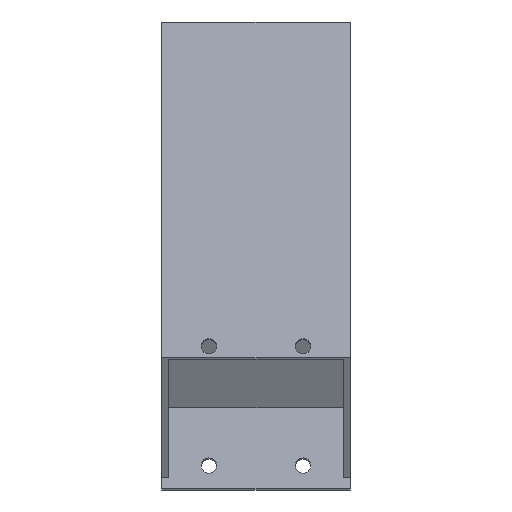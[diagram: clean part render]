
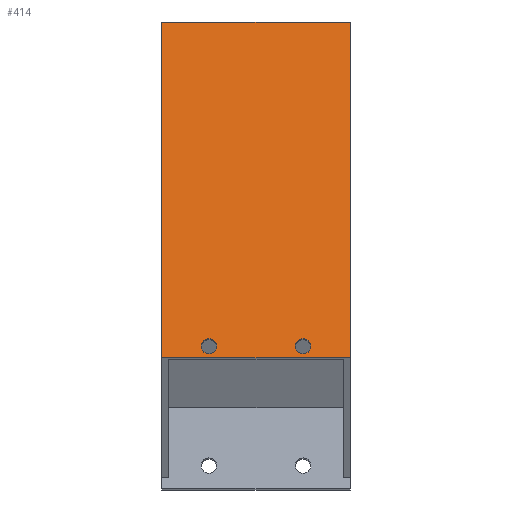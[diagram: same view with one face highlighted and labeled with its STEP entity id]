
A CAD part, top view. The second image highlights one B-rep face of the part: STEP entity #414.
In plain terms, the highlighted planar face has unit normal (0, 0.174, 0.985).
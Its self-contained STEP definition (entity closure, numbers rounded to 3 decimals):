
#122=CARTESIAN_POINT('',(-298.5,253.85,1938.666));
#123=VERTEX_POINT('',#122);
#130=CARTESIAN_POINT('',(-378.5,253.85,1938.666));
#131=VERTEX_POINT('',#130);
#132=CARTESIAN_POINT('',(-298.5,253.85,1938.666));
#133=DIRECTION('',(-1.0,0.,0.));
#134=VECTOR('',#133,1.);
#135=LINE('',#132,#134);
#136=EDGE_CURVE('',#123,#131,#135,.T.);
#362=CARTESIAN_POINT('',(-298.5,286.348,1932.935));
#363=DIRECTION('',(0.0,0.174,0.985));
#364=DIRECTION('',(-1.0,0.0,0.0));
#365=AXIS2_PLACEMENT_3D('',#362,#363,#364);
#366=PLANE('',#365);
#367=ORIENTED_EDGE('',*,*,#136,.F.);
#368=CARTESIAN_POINT('',(-298.5,396.647,1913.487));
#369=VERTEX_POINT('',#368);
#370=CARTESIAN_POINT('',(-298.5,253.85,1938.666));
#371=DIRECTION('',(0.0,0.985,-0.174));
#372=VECTOR('',#371,1.);
#373=LINE('',#370,#372);
#374=EDGE_CURVE('',#123,#369,#373,.T.);
#375=ORIENTED_EDGE('',*,*,#374,.T.);
#376=CARTESIAN_POINT('',(-378.5,396.647,1913.487));
#377=VERTEX_POINT('',#376);
#378=CARTESIAN_POINT('',(-298.5,396.647,1913.487));
#379=DIRECTION('',(-1.0,0.,0.));
#380=VECTOR('',#379,1.);
#381=LINE('',#378,#380);
#382=EDGE_CURVE('',#369,#377,#381,.T.);
#383=ORIENTED_EDGE('',*,*,#382,.T.);
#384=CARTESIAN_POINT('',(-378.5,253.85,1938.666));
#385=DIRECTION('',(0.0,0.985,-0.174));
#386=VECTOR('',#385,1.);
#387=LINE('',#384,#386);
#388=EDGE_CURVE('',#131,#377,#387,.T.);
#389=ORIENTED_EDGE('',*,*,#388,.F.);
#390=EDGE_LOOP('',(#367,#375,#383,#389));
#391=FACE_OUTER_BOUND('',#390,.T.);
#392=CARTESIAN_POINT('',(-355.2,258.774,1937.798));
#393=VERTEX_POINT('',#392);
#394=CARTESIAN_POINT('',(-358.5,258.774,1937.798));
#395=DIRECTION('',(0.0,0.174,0.985));
#396=DIRECTION('',(1.0,0.0,0.0));
#397=AXIS2_PLACEMENT_3D('',#394,#395,#396);
#398=CIRCLE('',#397,3.3);
#399=EDGE_CURVE('',#393,#393,#398,.T.);
#400=ORIENTED_EDGE('',*,*,#399,.F.);
#401=EDGE_LOOP('',(#400));
#402=FACE_BOUND('',#401,.T.);
#403=CARTESIAN_POINT('',(-315.2,258.774,1937.798));
#404=VERTEX_POINT('',#403);
#405=CARTESIAN_POINT('',(-318.5,258.774,1937.798));
#406=DIRECTION('',(0.0,0.174,0.985));
#407=DIRECTION('',(1.0,0.0,0.0));
#408=AXIS2_PLACEMENT_3D('',#405,#406,#407);
#409=CIRCLE('',#408,3.3);
#410=EDGE_CURVE('',#404,#404,#409,.T.);
#411=ORIENTED_EDGE('',*,*,#410,.F.);
#412=EDGE_LOOP('',(#411));
#413=FACE_BOUND('',#412,.T.);
#414=ADVANCED_FACE('',(#391,#402,#413),#366,.T.);
